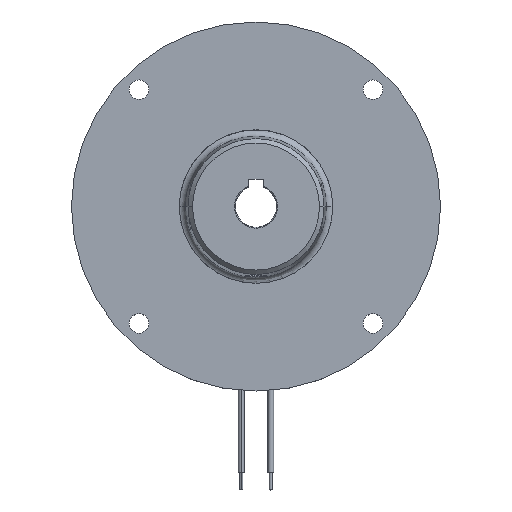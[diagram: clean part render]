
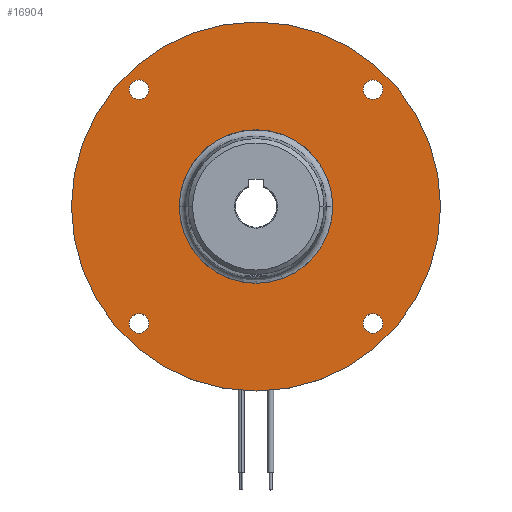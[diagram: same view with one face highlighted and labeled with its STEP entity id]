
A CAD part, top view. The second image highlights one B-rep face of the part: STEP entity #16904.
In plain terms, the highlighted planar face has unit normal (0, 0, 1).
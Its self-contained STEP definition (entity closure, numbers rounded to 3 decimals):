
#16 = VERTEX_POINT ( 'NONE', #24338 ) ;
#318 = ORIENTED_EDGE ( 'NONE', *, *, #18807, .T. ) ;
#418 = AXIS2_PLACEMENT_3D ( 'NONE', #23158, #6187, #13946 ) ;
#711 = EDGE_CURVE ( 'NONE', #11847, #13730, #16966, .T. ) ;
#714 = FACE_BOUND ( 'NONE', #22337, .T. ) ;
#723 = DIRECTION ( 'NONE',  ( 0., 0., -1. ) ) ;
#964 = FACE_BOUND ( 'NONE', #8279, .T. ) ;
#1069 = VERTEX_POINT ( 'NONE', #3906 ) ;
#1099 = DIRECTION ( 'NONE',  ( 0., 0., -1. ) ) ;
#1184 = ORIENTED_EDGE ( 'NONE', *, *, #21417, .T. ) ;
#1286 = CARTESIAN_POINT ( 'NONE',  ( 0., 0., 0. ) ) ;
#1310 = ORIENTED_EDGE ( 'NONE', *, *, #2153, .T. ) ;
#1400 = CARTESIAN_POINT ( 'NONE',  ( 62.5, 0., 0. ) ) ;
#1497 = VERTEX_POINT ( 'NONE', #19714 ) ;
#1985 = DIRECTION ( 'NONE',  ( -1., 0., 0. ) ) ;
#2153 = EDGE_CURVE ( 'NONE', #9397, #9932, #3979, .T. ) ;
#2251 = ORIENTED_EDGE ( 'NONE', *, *, #2508, .T. ) ;
#2363 = ORIENTED_EDGE ( 'NONE', *, *, #711, .T. ) ;
#2508 = EDGE_CURVE ( 'NONE', #13730, #11847, #19946, .T. ) ;
#3522 = VERTEX_POINT ( 'NONE', #16605 ) ;
#3906 = CARTESIAN_POINT ( 'NONE',  ( 36.298, 39.598, 0. ) ) ;
#3979 = CIRCLE ( 'NONE', #17943, 3.3 ) ;
#4126 = VERTEX_POINT ( 'NONE', #20895 ) ;
#4292 = CARTESIAN_POINT ( 'NONE',  ( 39.598, -39.598, 0. ) ) ;
#4343 = DIRECTION ( 'NONE',  ( -1., 0., 0. ) ) ;
#4621 = CARTESIAN_POINT ( 'NONE',  ( -39.598, 39.598, 0. ) ) ;
#4711 = DIRECTION ( 'NONE',  ( -1., 0., 0. ) ) ;
#4729 = CARTESIAN_POINT ( 'NONE',  ( -36.298, 39.598, 0. ) ) ;
#5224 = VERTEX_POINT ( 'NONE', #13053 ) ;
#5274 = EDGE_CURVE ( 'NONE', #5224, #16, #24511, .T. ) ;
#5388 = DIRECTION ( 'NONE',  ( -1., 0., 0. ) ) ;
#5521 = AXIS2_PLACEMENT_3D ( 'NONE', #6679, #6439, #17556 ) ;
#5566 = DIRECTION ( 'NONE',  ( -1., 0., 0. ) ) ;
#5955 = DIRECTION ( 'NONE',  ( 0., 0., -1. ) ) ;
#6187 = DIRECTION ( 'NONE',  ( 0., 0., -1. ) ) ;
#6424 = CIRCLE ( 'NONE', #8029, 3.3 ) ;
#6439 = DIRECTION ( 'NONE',  ( 0., 0., -1. ) ) ;
#6561 = CARTESIAN_POINT ( 'NONE',  ( 0., 0., 0. ) ) ;
#6679 = CARTESIAN_POINT ( 'NONE',  ( 0., 62.5, 0. ) ) ;
#6721 = DIRECTION ( 'NONE',  ( -1., 0., 0. ) ) ;
#7320 = EDGE_LOOP ( 'NONE', ( #2363, #2251 ) ) ;
#7420 = AXIS2_PLACEMENT_3D ( 'NONE', #20657, #10730, #5566 ) ;
#7688 = ORIENTED_EDGE ( 'NONE', *, *, #17910, .T. ) ;
#7709 = AXIS2_PLACEMENT_3D ( 'NONE', #14088, #723, #4343 ) ;
#7914 = DIRECTION ( 'NONE',  ( 0., 0., -1. ) ) ;
#8029 = AXIS2_PLACEMENT_3D ( 'NONE', #11932, #7914, #17663 ) ;
#8279 = EDGE_LOOP ( 'NONE', ( #15607, #318 ) ) ;
#8311 = FACE_BOUND ( 'NONE', #12551, .T. ) ;
#8754 = DIRECTION ( 'NONE',  ( 0., 0., -1. ) ) ;
#9249 = CARTESIAN_POINT ( 'NONE',  ( -42.898, 39.598, 0. ) ) ;
#9277 = ORIENTED_EDGE ( 'NONE', *, *, #23225, .F. ) ;
#9375 = EDGE_CURVE ( 'NONE', #1069, #4126, #14496, .T. ) ;
#9397 = VERTEX_POINT ( 'NONE', #21196 ) ;
#9932 = VERTEX_POINT ( 'NONE', #17140 ) ;
#10025 = DIRECTION ( 'NONE',  ( -1., 0., 0. ) ) ;
#10730 = DIRECTION ( 'NONE',  ( 0., 0., -1. ) ) ;
#11243 = CARTESIAN_POINT ( 'NONE',  ( 0., 0., 0. ) ) ;
#11526 = ORIENTED_EDGE ( 'NONE', *, *, #16863, .F. ) ;
#11847 = VERTEX_POINT ( 'NONE', #9249 ) ;
#11932 = CARTESIAN_POINT ( 'NONE',  ( 39.598, -39.598, 0. ) ) ;
#11992 = DIRECTION ( 'NONE',  ( 0., 0., -1. ) ) ;
#12052 = CIRCLE ( 'NONE', #23183, 62.5 ) ;
#12551 = EDGE_LOOP ( 'NONE', ( #1310, #1184 ) ) ;
#12749 = EDGE_CURVE ( 'NONE', #3522, #15361, #18474, .T. ) ;
#13053 = CARTESIAN_POINT ( 'NONE',  ( 42.898, -39.598, 0. ) ) ;
#13451 = DIRECTION ( 'NONE',  ( -1., 0., 0. ) ) ;
#13510 = AXIS2_PLACEMENT_3D ( 'NONE', #21701, #1099, #4711 ) ;
#13730 = VERTEX_POINT ( 'NONE', #4729 ) ;
#13829 = DIRECTION ( 'NONE',  ( 0., 0., -1. ) ) ;
#13946 = DIRECTION ( 'NONE',  ( -1., 0., 0. ) ) ;
#14088 = CARTESIAN_POINT ( 'NONE',  ( 39.598, 39.598, 0. ) ) ;
#14496 = CIRCLE ( 'NONE', #7709, 3.3 ) ;
#14519 = DIRECTION ( 'NONE',  ( -1., 0., 0. ) ) ;
#15361 = VERTEX_POINT ( 'NONE', #24644 ) ;
#15383 = ORIENTED_EDGE ( 'NONE', *, *, #9375, .T. ) ;
#15467 = EDGE_LOOP ( 'NONE', ( #20727, #17978 ) ) ;
#15607 = ORIENTED_EDGE ( 'NONE', *, *, #12749, .T. ) ;
#16384 = CARTESIAN_POINT ( 'NONE',  ( -39.598, -39.598, 0. ) ) ;
#16605 = CARTESIAN_POINT ( 'NONE',  ( -26., 0., 0. ) ) ;
#16863 = EDGE_CURVE ( 'NONE', #18639, #1497, #23830, .T. ) ;
#16866 = EDGE_LOOP ( 'NONE', ( #9277, #11526 ) ) ;
#16904 = ADVANCED_FACE ( 'NONE', ( #714, #21688, #8311, #19798, #20054, #964 ), #23656, .F. ) ;
#16966 = CIRCLE ( 'NONE', #7420, 3.3 ) ;
#17140 = CARTESIAN_POINT ( 'NONE',  ( -36.298, -39.598, 0. ) ) ;
#17148 = AXIS2_PLACEMENT_3D ( 'NONE', #4621, #11992, #6721 ) ;
#17556 = DIRECTION ( 'NONE',  ( -1., 0., 0. ) ) ;
#17663 = DIRECTION ( 'NONE',  ( -1., 0., 0. ) ) ;
#17777 = DIRECTION ( 'NONE',  ( 0., 0., -1. ) ) ;
#17890 = CIRCLE ( 'NONE', #13510, 26. ) ;
#17910 = EDGE_CURVE ( 'NONE', #4126, #1069, #24636, .T. ) ;
#17943 = AXIS2_PLACEMENT_3D ( 'NONE', #16384, #23841, #14519 ) ;
#17978 = ORIENTED_EDGE ( 'NONE', *, *, #5274, .T. ) ;
#18059 = DIRECTION ( 'NONE',  ( -1., 0., 0. ) ) ;
#18474 = CIRCLE ( 'NONE', #19267, 26. ) ;
#18639 = VERTEX_POINT ( 'NONE', #1400 ) ;
#18807 = EDGE_CURVE ( 'NONE', #15361, #3522, #17890, .T. ) ;
#18941 = CARTESIAN_POINT ( 'NONE',  ( 39.598, 39.598, 0. ) ) ;
#19267 = AXIS2_PLACEMENT_3D ( 'NONE', #11243, #22704, #1985 ) ;
#19714 = CARTESIAN_POINT ( 'NONE',  ( -62.5, 0., 0. ) ) ;
#19798 = FACE_BOUND ( 'NONE', #7320, .T. ) ;
#19946 = CIRCLE ( 'NONE', #17148, 3.3 ) ;
#20054 = FACE_OUTER_BOUND ( 'NONE', #16866, .T. ) ;
#20657 = CARTESIAN_POINT ( 'NONE',  ( -39.598, 39.598, 0. ) ) ;
#20727 = ORIENTED_EDGE ( 'NONE', *, *, #24221, .T. ) ;
#20895 = CARTESIAN_POINT ( 'NONE',  ( 42.898, 39.598, 0. ) ) ;
#21085 = AXIS2_PLACEMENT_3D ( 'NONE', #18941, #5955, #13451 ) ;
#21196 = CARTESIAN_POINT ( 'NONE',  ( -42.898, -39.598, 0. ) ) ;
#21417 = EDGE_CURVE ( 'NONE', #9932, #9397, #21946, .T. ) ;
#21688 = FACE_BOUND ( 'NONE', #15467, .T. ) ;
#21701 = CARTESIAN_POINT ( 'NONE',  ( 0., 0., 0. ) ) ;
#21946 = CIRCLE ( 'NONE', #418, 3.3 ) ;
#22243 = AXIS2_PLACEMENT_3D ( 'NONE', #6561, #13829, #18059 ) ;
#22337 = EDGE_LOOP ( 'NONE', ( #15383, #7688 ) ) ;
#22704 = DIRECTION ( 'NONE',  ( 0., 0., -1. ) ) ;
#23158 = CARTESIAN_POINT ( 'NONE',  ( -39.598, -39.598, 0. ) ) ;
#23183 = AXIS2_PLACEMENT_3D ( 'NONE', #1286, #8754, #5388 ) ;
#23225 = EDGE_CURVE ( 'NONE', #1497, #18639, #12052, .T. ) ;
#23656 = PLANE ( 'NONE',  #5521 ) ;
#23830 = CIRCLE ( 'NONE', #22243, 62.5 ) ;
#23841 = DIRECTION ( 'NONE',  ( 0., 0., -1. ) ) ;
#24128 = AXIS2_PLACEMENT_3D ( 'NONE', #4292, #17777, #10025 ) ;
#24221 = EDGE_CURVE ( 'NONE', #16, #5224, #6424, .T. ) ;
#24338 = CARTESIAN_POINT ( 'NONE',  ( 36.298, -39.598, 0. ) ) ;
#24511 = CIRCLE ( 'NONE', #24128, 3.3 ) ;
#24636 = CIRCLE ( 'NONE', #21085, 3.3 ) ;
#24644 = CARTESIAN_POINT ( 'NONE',  ( 26., 0., 0. ) ) ;
